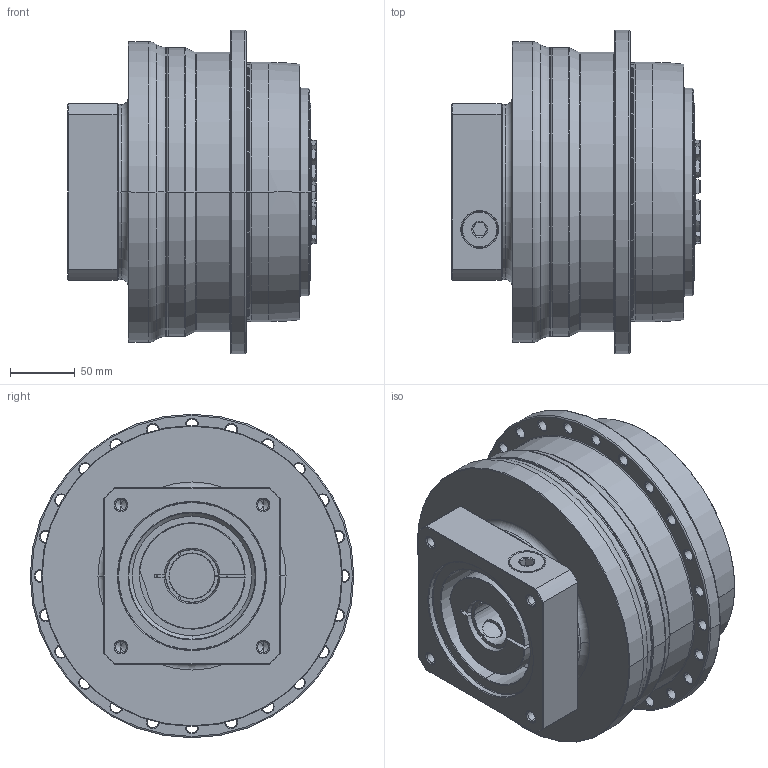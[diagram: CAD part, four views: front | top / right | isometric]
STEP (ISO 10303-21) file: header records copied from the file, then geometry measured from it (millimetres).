
FILE_DESCRIPTION((''),'2;1');
FILE_NAME('APC200_1ST_35-P0409800201_ASM','2018-06-12T',('d01226'),(''),'PRO/ENGINEER BY PARAMETRIC TECHNOLOGY CORPORATION, 2008410','PRO/ENGINEER BY PARAMETRIC TECHNOLOGY CORPORATION, 2008410','');
FILE_SCHEMA(('CONFIG_CONTROL_DESIGN'));
Length unit declared in the file: millimetre
Products named in the file (9): P0278601003; P0359660103; P1318610101; P0503800012; P0912601001; P1211600001; P0409800201; 21711422019; APC200_1ST_35-P0409800201_ASM
Assembly tree (8 placements, depth 2):
  APC200_1ST_35-P0409800201_ASM
    P0278601003
    P0359660103
    P1318610101
    P0503800012
    P0912601001
    P1211600001
    P0409800201
    21711422019
Bounding box: 191.6 x 249.5 x 249.5 mm (x, y, z)
Volume: 6222331.3 mm3; surface area: 560618.1 mm2
Topology: 9 solids, 20 shells, 676 faces, 1615 edges, 981 vertices
Faces by surface type: cone 226, cylinder 212, plane 122, torus 102, bspline 14
Entity records: 24830 total; most frequent: CARTESIAN_POINT 8703, DIRECTION 3621, ORIENTED_EDGE 3152, EDGE_CURVE 1597, AXIS2_PLACEMENT_3D 1570, VERTEX_POINT 981, CIRCLE 881, EDGE_LOOP 780
